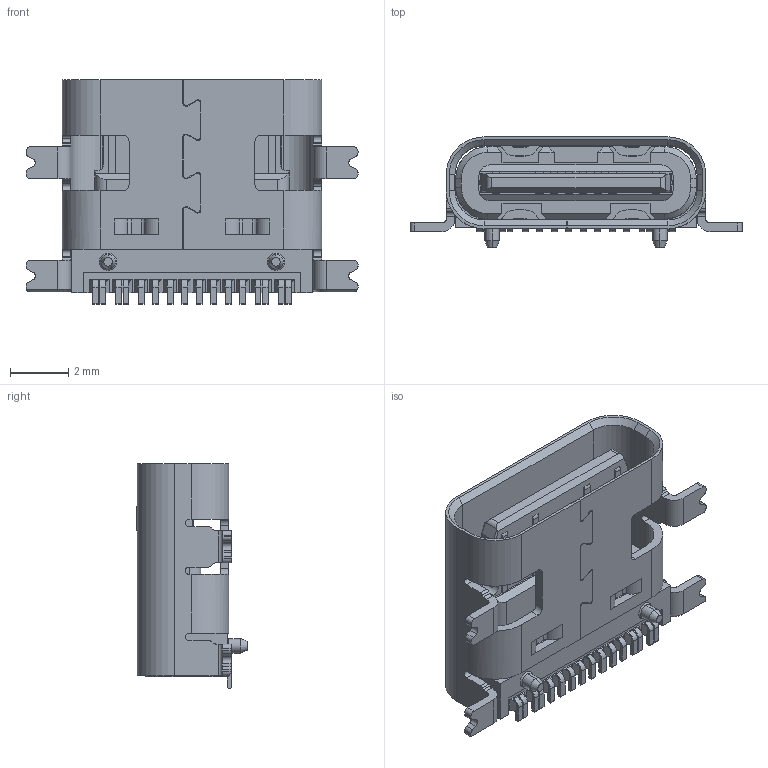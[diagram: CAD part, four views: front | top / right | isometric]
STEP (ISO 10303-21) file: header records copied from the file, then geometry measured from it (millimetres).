
FILE_DESCRIPTION (( 'STEP AP203' ), '1' );
FILE_NAME ('U5097-16PN7.35L.STEP', '2026-10-15T09:38:25', ( '' ), ( '' ), 'SwSTEP 2.0', 'SolidWorks 2024', '' );
FILE_SCHEMA (( 'CONFIG_CONTROL_DESIGN' ));
Length unit declared in the file: millimetre
Products named in the file (1): U5097-16PN7.35L
Bounding box: 11.44 x 3.85 x 7.75 mm (x, y, z)
Volume: 116.1 mm3; surface area: 483 mm2
Topology: 1 solids, 1 shells, 780 faces, 2239 edges, 1450 vertices
Faces by surface type: plane 507, cylinder 228, bspline 25, cone 20
Entity records: 27145 total; most frequent: CARTESIAN_POINT 6497, ORIENTED_EDGE 4478, DIRECTION 4104, EDGE_CURVE 2239, VECTOR 1678, LINE 1678, VERTEX_POINT 1450, AXIS2_PLACEMENT_3D 1213
